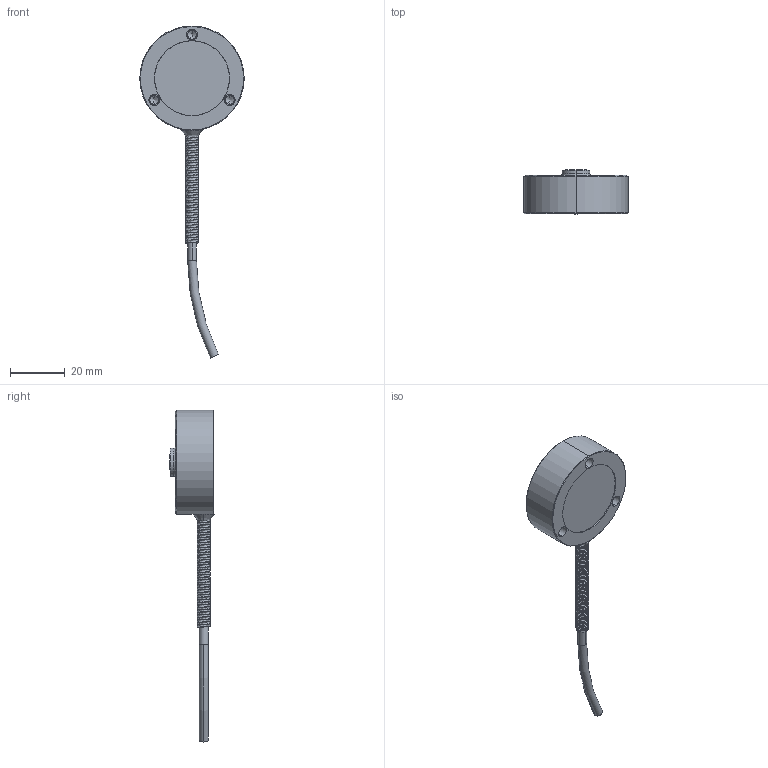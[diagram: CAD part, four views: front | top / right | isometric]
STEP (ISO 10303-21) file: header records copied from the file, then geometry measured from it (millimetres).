
FILE_DESCRIPTION (( 'STEP AP214' ), '1' );
FILE_NAME ('ALBM-3M-MC.STEP', '2021-04-27T07:23:06', ( '' ), ( '' ), 'SwSTEP 2.0', 'SolidWorks 2011', '' );
FILE_SCHEMA (( 'AUTOMOTIVE_DESIGN' ));
Length unit declared in the file: millimetre
Products named in the file (18): CONS000934; CAB002016; RES003669; CAB-A005485; STR-A005892; MMACH-A005837; PCB-A005992; MMACH-A005536; Copy of Copy of 3.2mm^ALBM-3M-MC; CONS003645; RES-A006753; MWHML42AWG; HS001889; SPR-A005545; ALBM-3M-MC; CAB-A005926; CONS003738; CONS000933
Assembly tree (4 placements, depth 2):
  CONS000934
  CAB002016
  RES003669
  CAB-A005485
  STR-A005892
Bounding box: 38.1 x 16.26 x 121.15 mm (x, y, z)
Volume: 16192.9 mm3; surface area: 8426.2 mm2
Topology: 4 solids, 4 shells, 66 faces, 140 edges, 86 vertices
Faces by surface type: cylinder 30, plane 14, cone 10, torus 6, bspline 4, sphere 2
Entity records: 17667 total; most frequent: CARTESIAN_POINT 15813, DIRECTION 342, ORIENTED_EDGE 268, AXIS2_PLACEMENT_3D 151, EDGE_CURVE 134, VERTEX_POINT 86, CIRCLE 82, EDGE_LOOP 76
